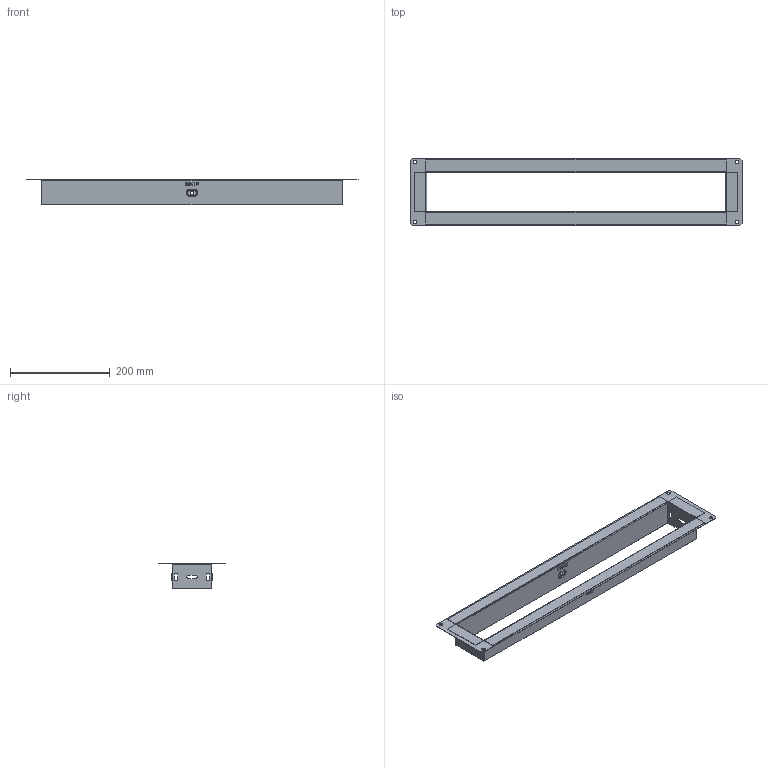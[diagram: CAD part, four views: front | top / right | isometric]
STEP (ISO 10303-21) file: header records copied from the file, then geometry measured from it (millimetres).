
FILE_DESCRIPTION (( 'STEP AP203' ), '1' );
FILE_NAME ('f80600_捘.STEP', '2020-01-23T12:32:51', ( '' ), ( '' ), 'SwSTEP 2.0', 'SolidWorks 2016', '' );
FILE_SCHEMA (( 'CONFIG_CONTROL_DESIGN' ));
Length unit declared in the file: millimetre
Products named in the file (9): f80600_1; f50600_2; f80300_3; f80600_捘
Assembly tree (5 placements, depth 2):
  f80600_捘
    f80600_1
    f50600_2  x2
    f80300_3  x2
  f80600_1
  f50600_2
  f50600_2
  f80300_3
Bounding box: 665 x 135 x 51.5 mm (x, y, z)
Volume: 113358.4 mm3; surface area: 288721.3 mm2
Topology: 5 solids, 5 shells, 314 faces, 816 edges, 528 vertices
Faces by surface type: plane 216, cylinder 64, bspline 18, torus 16
Entity records: 6402 total; most frequent: CARTESIAN_POINT 1382, ORIENTED_EDGE 876, DIRECTION 840, EDGE_CURVE 438, LINE 336, VECTOR 336, VERTEX_POINT 284, AXIS2_PLACEMENT_3D 252
